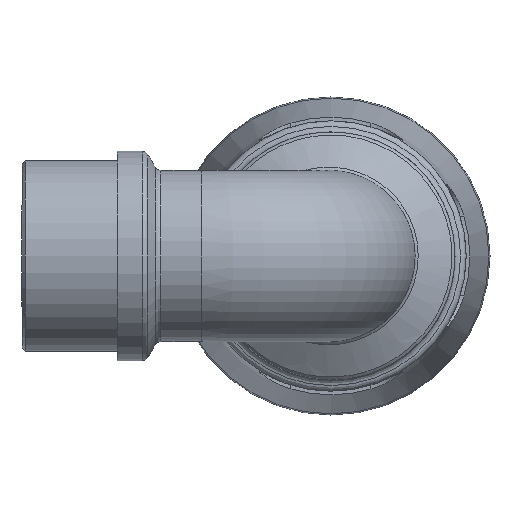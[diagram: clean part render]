
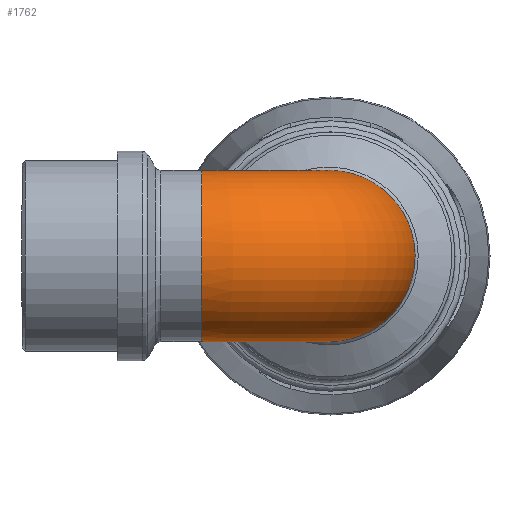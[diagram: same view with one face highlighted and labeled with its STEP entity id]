
A CAD part, left-side view. The second image highlights one B-rep face of the part: STEP entity #1762.
In plain terms, the highlighted toroidal (fillet/blend) face has major radius 28.465 mm and minor radius 18.86 mm.
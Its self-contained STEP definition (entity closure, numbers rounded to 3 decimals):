
#236=B_SPLINE_CURVE_WITH_KNOTS('',3,(#2685,#2686,#2687,#2688,#2689,#2690,
#2691,#2692,#2693,#2694,#2695,#2696,#2697,#2698,#2699,#2700,#2701,#2702,
#2703,#2704),.UNSPECIFIED.,.T.,.F.,(4,1,1,1,1,1,1,1,1,1,1,1,1,1,1,1,1,4),
(-3.142,-2.917,-2.693,-2.244,
-1.795,-1.346,-0.748,-0.449,
-0.299,-0.15,0.449,0.898,
1.346,1.795,2.244,2.693,2.917,
3.142),.UNSPECIFIED.);
#357=FACE_BOUND('',#512,.T.);
#389=FACE_OUTER_BOUND('',#511,.T.);
#511=EDGE_LOOP('',(#1167));
#512=EDGE_LOOP('',(#1168));
#634=CIRCLE('',#1873,18.86);
#731=VERTEX_POINT('',#2580);
#733=VERTEX_POINT('',#2683);
#894=EDGE_CURVE('',#731,#731,#634,.T.);
#896=EDGE_CURVE('',#733,#733,#236,.T.);
#1167=ORIENTED_EDGE('',*,*,#896,.F.);
#1168=ORIENTED_EDGE('',*,*,#894,.T.);
#1632=TOROIDAL_SURFACE('',#1887,28.465,18.86);
#1762=ADVANCED_FACE('',(#389,#357),#1632,.T.);
#1873=AXIS2_PLACEMENT_3D('',#2581,#2091,#2092);
#1887=AXIS2_PLACEMENT_3D('',#2944,#2120,#2121);
#2091=DIRECTION('center_axis',(0.,-1.,0.));
#2092=DIRECTION('ref_axis',(-1.,0.,0.));
#2120=DIRECTION('center_axis',(0.,0.,1.));
#2121=DIRECTION('ref_axis',(1.,0.,0.));
#2580=CARTESIAN_POINT('',(18.86,28.465,0.));
#2581=CARTESIAN_POINT('Origin',(0.,28.465,0.));
#2683=CARTESIAN_POINT('',(22.355,21.054,0.));
#2685=CARTESIAN_POINT('Ctrl Pts',(22.355,21.054,0.));
#2686=CARTESIAN_POINT('Ctrl Pts',(22.355,21.054,1.433));
#2687=CARTESIAN_POINT('Ctrl Pts',(22.354,20.62,4.3));
#2688=CARTESIAN_POINT('Ctrl Pts',(22.377,18.26,9.633));
#2689=CARTESIAN_POINT('Ctrl Pts',(22.479,13.301,15.149));
#2690=CARTESIAN_POINT('Ctrl Pts',(22.597,5.316,18.932));
#2691=CARTESIAN_POINT('Ctrl Pts',(22.682,-4.511,19.113));
#2692=CARTESIAN_POINT('Ctrl Pts',(22.722,-12.395,14.782));
#2693=CARTESIAN_POINT('Ctrl Pts',(22.738,-16.279,9.222));
#2694=CARTESIAN_POINT('Ctrl Pts',(22.744,-17.709,5.668));
#2695=CARTESIAN_POINT('Ctrl Pts',(22.749,-19.034,0.066));
#2696=CARTESIAN_POINT('Ctrl Pts',(22.744,-17.806,-7.843));
#2697=CARTESIAN_POINT('Ctrl Pts',(22.719,-11.554,-15.42));
#2698=CARTESIAN_POINT('Ctrl Pts',(22.673,-3.526,-19.086));
#2699=CARTESIAN_POINT('Ctrl Pts',(22.597,5.315,-18.936));
#2700=CARTESIAN_POINT('Ctrl Pts',(22.479,13.302,-15.147));
#2701=CARTESIAN_POINT('Ctrl Pts',(22.377,18.259,-9.634));
#2702=CARTESIAN_POINT('Ctrl Pts',(22.354,20.62,-4.3));
#2703=CARTESIAN_POINT('Ctrl Pts',(22.355,21.054,-1.433));
#2704=CARTESIAN_POINT('Ctrl Pts',(22.355,21.054,0.));
#2944=CARTESIAN_POINT('Origin',(28.465,28.465,0.));
